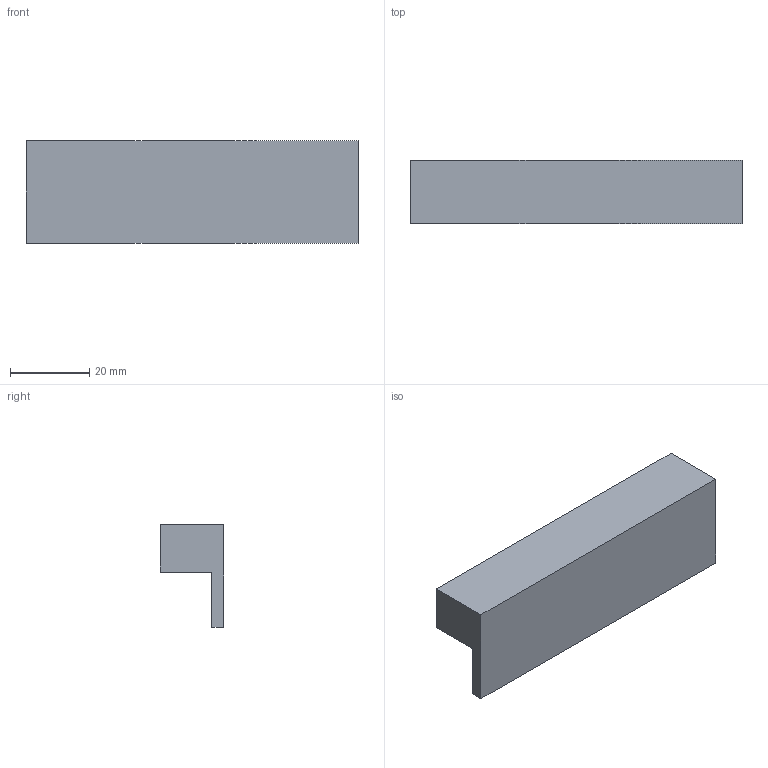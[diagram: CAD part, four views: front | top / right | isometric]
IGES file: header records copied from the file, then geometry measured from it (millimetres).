
Start section: Data from Parasolid IGES Translator 20.0.26, Copyright(c) 2006 Siemens P LM Software. All Rights Reserved.
Global section: file name: 9995438.igs; native system: By Siemens PLM Incorporated; preprocessor: XPlus GENERIC/IGES 20.0.26; author: Noname; organization: Noname; date: 20230220.165333; units: millimetre
Bounding box: 84 x 16 x 26 mm (x, y, z)
Surface area: 7775.3 mm2 (no closed solid volume)
Topology: 0 solids, 0 shells, 12 faces, 48 edges, 46 vertices
Faces by surface type: extrusion 10, revolution 2
